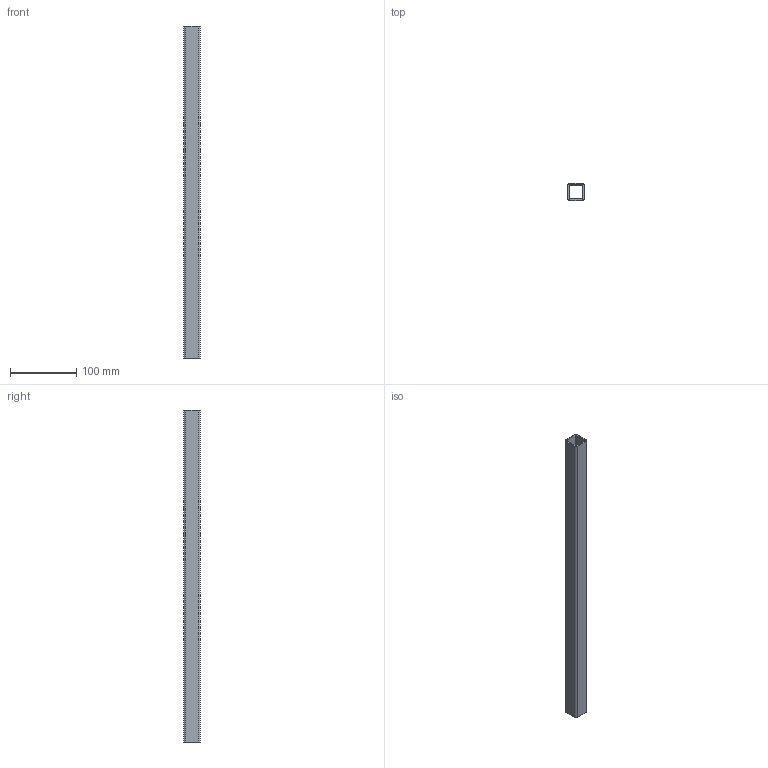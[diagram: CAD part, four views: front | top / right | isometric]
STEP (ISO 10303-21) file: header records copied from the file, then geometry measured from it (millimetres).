
FILE_DESCRIPTION (( 'STEP AP214' ), '1' );
FILE_NAME ('A21612.step', '2024-12-03T16:10:58', ( '' ), ( '' ), 'SwSTEP 2.0', 'SolidWorks 2023', '' );
FILE_SCHEMA (( 'AUTOMOTIVE_DESIGN' ));
Length unit declared in the file: millimetre
Products named in the file (1): A21612
Bounding box: 25 x 25 x 500 mm (x, y, z)
Volume: 89854 mm3; surface area: 88067.4 mm2
Topology: 1 solids, 1 shells, 18 faces, 48 edges, 32 vertices
Faces by surface type: plane 10, cylinder 8
Entity records: 595 total; most frequent: DIRECTION 102, CARTESIAN_POINT 99, ORIENTED_EDGE 96, EDGE_CURVE 48, AXIS2_PLACEMENT_3D 35, VECTOR 32, LINE 32, VERTEX_POINT 32
